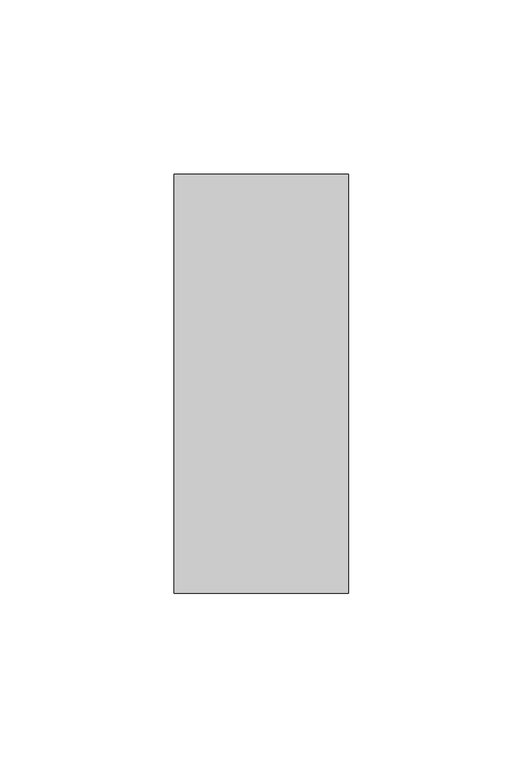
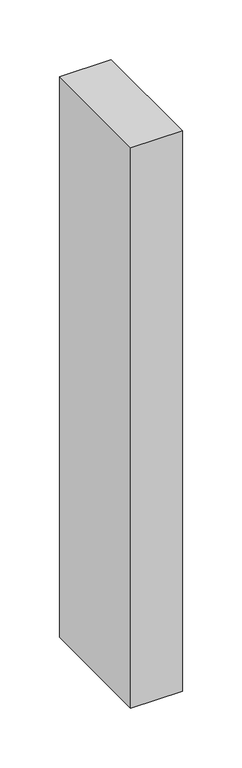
"""IFC4 building model written with IfcOpenShell, lengths in millimetres: member geometry, Прямоугольный импост : 50х120 мм."""

from ifc_helpers import new_model, si_unit, frame, origin, place, context, project, spatial, polyline, outline, extrude, source, transform, mapped, element, save


def member_14b48f45(model_context):
    return source(origin(), model_context, "Body", "SweptSolid", [
        extrude(outline(polyline([(0.0, 60.0), (0.0, -60.0), (-50.0, -60.0), (-50.0, 60.0), (0.0, 60.0)])), frame((0.0, 0.0, -575.0), z_axis=(0.0, 0.0, 1.0), x_axis=(1.0, 0.0, 0.0)), (0.0, 0.0, 1.0), 575.0),
    ])


if __name__ == "__main__":
    model = new_model("IFC4")
    model_context = context("Model", 3, world=origin())
    ifc_project = project(units=[si_unit("LENGTHUNIT", "METRE", prefix="MILLI")], contexts=[model_context])
    site = spatial("IfcSite", under=ifc_project)
    building = spatial("IfcBuilding", under=site)
    placement = place(None, origin())
    member_shape = member_14b48f45(model_context)
    element("IfcMember", 1, ObjectType="Прямоугольный импост : 50х120 мм", at=placement, inside=building, context=model_context, shape_type="MappedRepresentation", body=[
        mapped(member_shape, transform((0.0, 0.0, 0.0), x_axis=(1.0, 0.0, 0.0), y_axis=(0.0, 1.0, 0.0), z_axis=(0.0, 0.0, 1.0))),
    ])
    save(model, "model.ifc")
